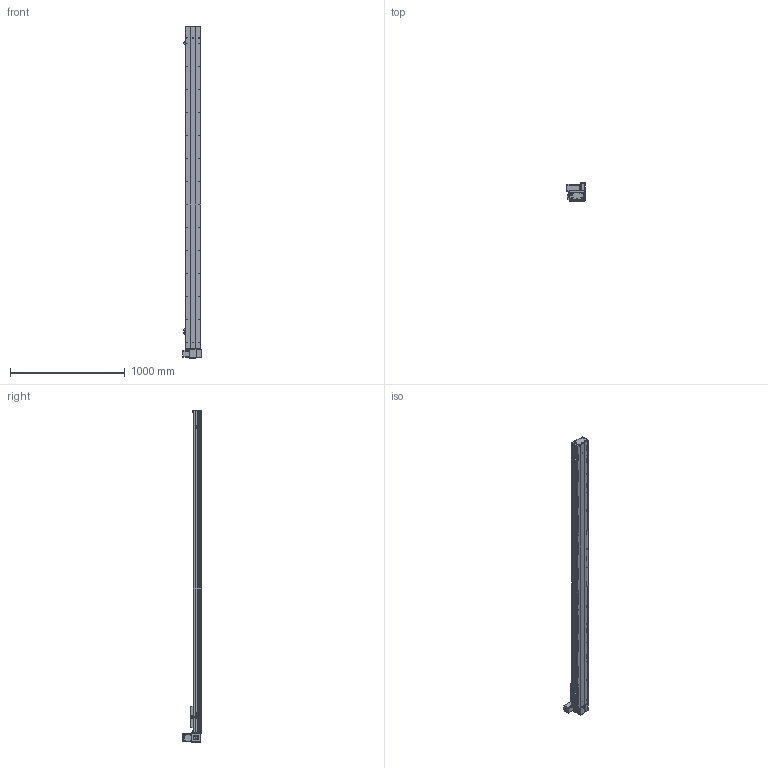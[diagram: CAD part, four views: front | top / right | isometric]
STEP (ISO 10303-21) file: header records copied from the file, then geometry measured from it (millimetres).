
FILE_DESCRIPTION (( 'STEP AP203' ), '1' );
FILE_NAME ('Y135CB-D90-S2500-UL-P400W.STEP', '2020-02-18T08:04:36', ( '微软用户' ), ( '微软中国' ), 'SwSTEP 2.0', 'SolidWorks 2017', '' );
FILE_SCHEMA (( 'CONFIG_CONTROL_DESIGN' ));
Length unit declared in the file: millimetre
Products named in the file (18): Y135CB-D90-S2500-UL-P400W; 135CB--詩湍-CE; 135CB---遴掛极.-; Y100-135俋离換覜ん--; 35CB---喘謫眊楊擘啣; Y135C-陔俋离換覜結え-; 0B-埴倛裔啣; 5C--俋欶; 0B-源倛裔啣; C-雄赽釱--; 0B-萇儂楊擘啣; Y10B-耜蚾蟀諉啣----; san松下电机400不带刹车----; 00B-俋欶BM--; 5CB --掛极耜裔啣-; Y10B--々湍喘謫眊--666; C-詩湍揤踡え-陔; Y135CB-耜裔
Assembly tree (21 placements, depth 2):
  Y135CB-D90-S2500-UL-P400W
    Y135CB-耜裔
    135CB---遴掛极.-
    35CB---喘謫眊楊擘啣
    0B-埴倛裔啣
    0B-源倛裔啣
    0B-萇儂楊擘啣
    san松下电机400不带刹车----
    5CB --掛极耜裔啣-  x2
    C-詩湍揤踡え-陔  x2
    135CB--詩湍-CE
    Y100-135俋离換覜ん--  x3
    Y135C-陔俋离換覜結え-
    5C--俋欶
    C-雄赽釱--
    Y10B-耜蚾蟀諉啣----
    00B-俋欶BM--
    Y10B--々湍喘謫眊--666
Bounding box: 157 x 158.7 x 2888 mm (x, y, z)
Volume: 8281705.7 mm3; surface area: 3280055.2 mm2
Topology: 21 solids, 21 shells, 977 faces, 2671 edges, 1770 vertices
Faces by surface type: cylinder 505, plane 456, cone 16
Entity records: 30965 total; most frequent: CARTESIAN_POINT 5164, DIRECTION 5147, ORIENTED_EDGE 4818, EDGE_CURVE 2409, AXIS2_PLACEMENT_3D 1889, VERTEX_POINT 1598, LINE 1369, VECTOR 1369
